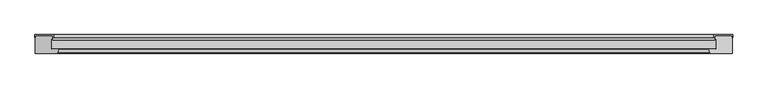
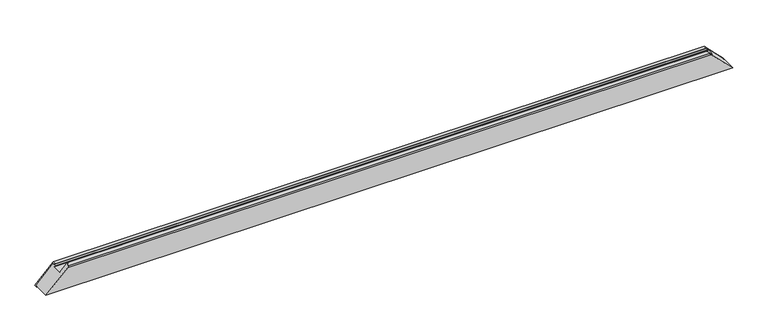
"""IFC4 building model written with IfcOpenShell, lengths in millimetres: proxy geometry, Weiku - Montante - Caixilho 02.2.01.005 : Weiku - Montante - Caixilho 02.2.01.005."""

from ifc_helpers import new_model, si_unit, frame, origin, place, context, project, spatial, ellipse_curve, faceted_brep, source, transform, mapped, element, save
from ifc_brep_helpers import plane_surface, cylinder_surface, advanced_brep


def generic_models_c134e6d3(model_context):
    return source(origin(), model_context, "Body", "SolidModel", [
        faceted_brep([(-972.5, 43.5137905, 0.0), (-972.5, 50.0, 0.0), (-923.5, 50.0, 49.0), (-923.5, 43.5137905, 49.0), (-921.5, 43.5137905, 51.0), (-921.5, 52.0, 51.0), (-973.5, 52.0, -1.0), (-973.5, 43.5137905, -1.0), (972.5, 50.0, 0.0), (972.5, 43.5137905, 0.0), (973.5, 43.5137905, -1.0), (973.5, 52.0, -1.0), (921.5, 52.0, 51.0), (921.5, 43.5137905, 51.0), (923.5, 43.5137905, 49.0), (923.5, 50.0, 49.0)], [[[0, 1, 2, 3, 4, 5, 6, 7]], [[8, 9, 10, 11, 12, 13, 14, 15]], [[1, 0, 9, 8]], [[2, 1, 8, 15]], [[3, 2, 15, 14]], [[4, 3, 14, 13]], [[5, 4, 13, 12]], [[6, 5, 12, 11]], [[7, 6, 11, 10]], [[0, 7, 10, 9]]]),
        advanced_brep(
        [(-926.5, 12.5, 46.0), (-906.3909676, 12.5, 66.1090324), (906.3909676, 12.5, 66.1090324), (926.5, 12.5, 46.0), (-926.5, 37.8314286, 46.0), (926.5, 37.8314286, 46.0), (-923.5, 37.027581, 49.0), (923.5, 37.027581, 49.0), (-923.5, 50.0, 49.0), (923.5, 50.0, 49.0), (972.5, 50.0, 0.0), (-972.5, 50.0, 0.0), (972.5, 0.0, 0.0), (-972.5, 0.0, 0.0), (910.9997332, 0.0, 61.5002668), (-910.9997332, 0.0, 61.5002668), (-905.618227, 11.4929448, 66.881773), (-908.1019557, 2.2235429, 64.3980443), (908.1019557, 2.2235429, 64.3980443), (905.618227, 11.4929448, 66.881773)],
        [
            (0, 1),
            (1, 2),
            (2, 3),
            (3, 0),
            (4, 0),
            (3, 5),
            (5, 4),
            (6, 4),
            (5, 7),
            (7, 6),
            (8, 6),
            (7, 9),
            (9, 8),
            (10, 11),
            (11, 8),
            (9, 10),
            (10, 12),
            (12, 13),
            (13, 11),
            (12, 14),
            (14, 15),
            (15, 13),
            (16, 17),
            (17, 18),
            (18, 19),
            (19, 16),
            (15, 17, ellipse_curve(frame((-910.9997332, 3.0, 61.5002668), z_axis=(-0.707106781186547, 0.0, 0.707106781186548), x_axis=(-0.7071067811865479, 0.0, -0.707106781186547)), 4.2426407, 3.0)),
            (16, 1, ellipse_curve(frame((-906.3909676, 11.7, 66.1090324), z_axis=(-0.707106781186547, 0.0, 0.707106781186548), x_axis=(-0.7071067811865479, 0.0, -0.707106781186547)), 1.1313708, 0.8)),
            (2, 19, ellipse_curve(frame((906.3909676, 11.7, 66.1090324), z_axis=(0.7071067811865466, 0.0, 0.7071067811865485), x_axis=(-0.7071067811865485, 0.0, 0.7071067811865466)), 1.1313708, 0.8)),
            (18, 14, ellipse_curve(frame((910.9997332, 3.0, 61.5002668), z_axis=(0.7071067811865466, 0.0, 0.7071067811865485), x_axis=(-0.7071067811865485, 0.0, 0.7071067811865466)), 4.2426407, 3.0)),
        ],
        [
            plane_surface(frame((-972.5, 12.5, 66.1090324), z_axis=(0.0, 1.0, 0.0), x_axis=(1.0, 0.0, 0.0))),
            plane_surface(frame((-972.5, 12.5, 46.0), z_axis=(0.0, 0.0, 1.0), x_axis=(1.0, 0.0, 0.0))),
            plane_surface(frame((-972.5, 37.8314286, 46.0), z_axis=(0.0, -0.9659258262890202, -0.2588190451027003), x_axis=(1.0, 0.0, 0.0))),
            plane_surface(frame((-972.5, 37.027581, 49.0), z_axis=(0.0, 0.0, 1.0), x_axis=(1.0, 0.0, 0.0))),
            plane_surface(frame((-972.5, 50.0, 49.0), z_axis=(0.0, 1.0, 0.0), x_axis=(1.0, 0.0, 0.0))),
            plane_surface(frame((-972.5, 50.0, 0.0), z_axis=(0.0, 0.0, -1.0), x_axis=(1.0, 0.0, 0.0))),
            plane_surface(frame((-972.5, 0.0, 0.0), z_axis=(0.0, -1.0, 0.0), x_axis=(1.0, 0.0, 0.0))),
            plane_surface(frame((-972.5, 2.2235429, 64.3980443), z_axis=(0.0, -0.2588190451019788, 0.9659258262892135), x_axis=(1.0, 0.0, 0.0))),
            plane_surface(frame((-1042.5, -15.0, -70.0), z_axis=(-0.707106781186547, 0.0, 0.707106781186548), x_axis=(0.0, 1.0, 0.0))),
            plane_surface(frame((902.5, -15.0, 70.0), z_axis=(0.7071067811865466, 0.0, 0.7071067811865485), x_axis=(0.0, 1.0, 0.0))),
            cylinder_surface(frame((-972.5, 11.7, 66.1090324), z_axis=(-1.0, 0.0, 0.0), x_axis=(0.0, 1.0, 0.0)), 0.8),
            cylinder_surface(frame((-972.5, 3.0, 61.5002668), z_axis=(-1.0, 0.0, 0.0), x_axis=(0.0, 1.0, 0.0)), 3.0),
        ],
        [
            (0, [[1, 2, 3, 4]]),
            (1, [[5, -4, 6, 7]]),
            (2, [[8, -7, 9, 10]]),
            (3, [[11, -10, 12, 13]]),
            (4, [[14, 15, -13, 16]]),
            (5, [[-14, 17, 18, 19]]),
            (6, [[-18, 20, 21, 22]]),
            (7, [[23, 24, 25, 26]]),
            (8, [[-1, -5, -8, -11, -15, -19, -22, 27, -23, 28]]),
            (9, [[-3, 29, -25, 30, -20, -17, -16, -12, -9, -6]]),
            (10, [[-28, -26, -29, -2]]),
            (11, [[-27, -21, -30, -24]]),
        ],
    ),
    ])


if __name__ == "__main__":
    model = new_model("IFC4")
    model_context = context("Model", 3, world=origin())
    ifc_project = project(units=[si_unit("LENGTHUNIT", "METRE", prefix="MILLI")], contexts=[model_context])
    site = spatial("IfcSite", under=ifc_project)
    building = spatial("IfcBuilding", under=site)
    placement = place(None, origin())
    generic_models_shape = generic_models_c134e6d3(model_context)
    element("IfcBuildingElementProxy", 1, Name="Weiku - Montante - Caixilho 02.2.01.005 : Weiku - Montante - Caixilho 02.2.01.005", ObjectType="Weiku - Montante - Caixilho 02.2.01.005 : Weiku - Montante - Caixilho 02.2.01.005", at=placement, inside=building, context=model_context, shape_type="MappedRepresentation", body=[
        mapped(generic_models_shape, transform((0.0, 0.0, 0.0), x_axis=(1.0, 0.0, 0.0), y_axis=(0.0, 1.0, 0.0), z_axis=(0.0, 0.0, 1.0))),
    ])
    save(model, "model.ifc")
